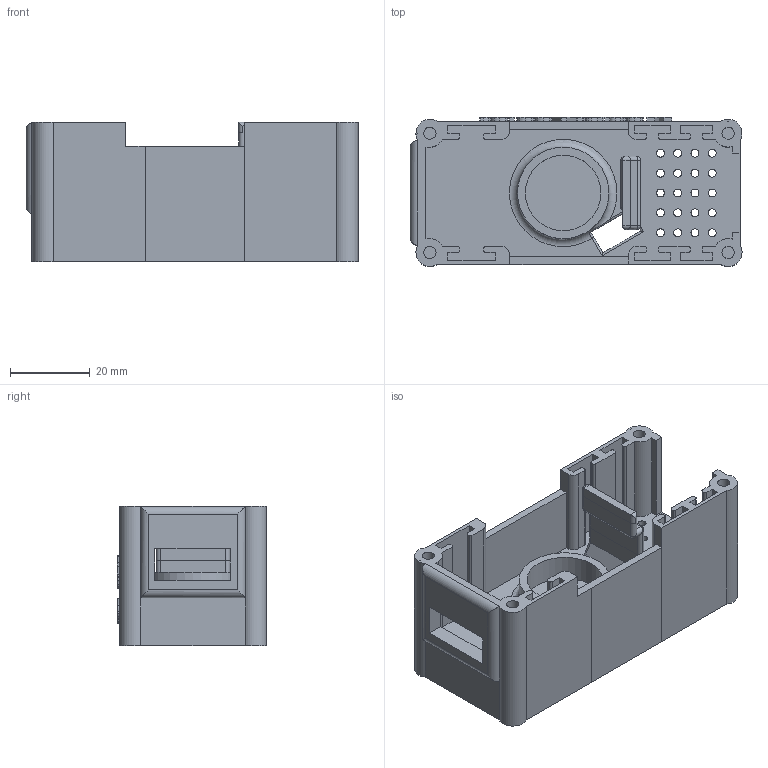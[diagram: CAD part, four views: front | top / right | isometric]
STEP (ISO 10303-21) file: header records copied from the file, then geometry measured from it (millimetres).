
FILE_DESCRIPTION(/* description */ (''),/* implementation_level */ '2;1');
FILE_NAME(/* name */ 'BodyMain.step',/* time_stamp */ '2026-09-30T10:54:44+13:00',/* author */ (''),/* organization */ (''),/* preprocessor_version */ 'ST-DEVELOPER v20.2',/* originating_system */ 'Autodesk Translation Framework v15.15.0.0',/* authorisation */ '');
FILE_SCHEMA (('AUTOMOTIVE_DESIGN { 1 0 10303 214 3 1 1 }'));
Length unit declared in the file: millimetre
Products named in the file (1): 2026-08-23-14-38-27-662
Bounding box: 83.5 x 37.5 x 35 mm (x, y, z)
Volume: 25401.7 mm3; surface area: 25364.4 mm2
Topology: 1 solids, 1 shells, 589 faces, 1617 edges, 1065 vertices
Faces by surface type: plane 279, bspline 206, cylinder 101, sphere 2, torus 1
Full cylindrical faces by diameter (mm): 2 x20, 3.1 x8, 19 x1, 23 x1
Entity records: 20786 total; most frequent: CARTESIAN_POINT 6915, ORIENTED_EDGE 3230, DIRECTION 2165, EDGE_CURVE 1615, VERTEX_POINT 1065, LINE 1007, VECTOR 1007, EDGE_LOOP 674
